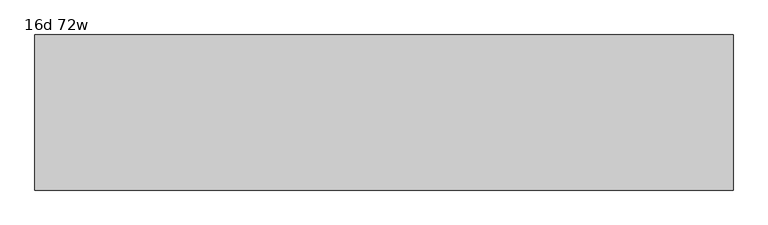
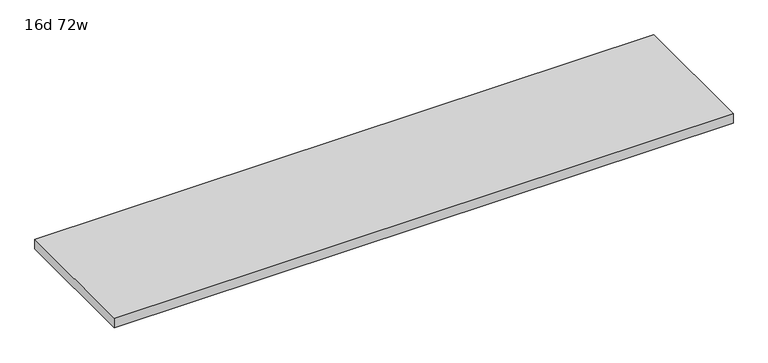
"""IFC4 building model written with IfcOpenShell, lengths in millimetres: furniture geometry, Haworth_BeHold_CommonTop : 16d 72w."""

import ifcopenshell
import ifcopenshell.guid

model = None  # the IFC model being written
_history = None  # IfcOwnerHistory: only IFC2X3 demands one
_inside = {}  # id of a spatial element -> (the spatial element, [elements in it])
_under = {}  # id of a project, library or spatial element -> (it, [spatial elements below it])
_declared = {}  # id of a project -> (the project, [libraries it declares])
_typed = {}  # id of a type object -> (the type object, [elements of that type])
_made_of = {}  # id of a material, layer set ... -> (it, [elements and type objects made of it])


def new_model(schema):
    """Start an empty IFC model of exactly this schema.

    Asked for "IFC4X3", IfcOpenShell would pick the latest addendum, in which some entities
    have other attributes; the version numbers below select the first issue.
    IFC2X3 requires an IfcOwnerHistory on every rooted entity: one is made here for all.
    """
    global model, _history
    if schema == "IFC4X3":
        model = ifcopenshell.file(schema_version=(4, 3, 0, 0))
    else:
        model = ifcopenshell.file(schema=schema)
    _inside.clear()
    _under.clear()
    _declared.clear()
    _typed.clear()
    _made_of.clear()
    _history = None
    if model.schema == "IFC2X3":
        org = make("IfcOrganization", Name="unknown")
        user = make(
            "IfcPersonAndOrganization",
            ThePerson=make("IfcPerson", FamilyName="unknown"),
            TheOrganization=org,
        )
        app = make(
            "IfcApplication",
            ApplicationDeveloper=org,
            Version="unknown",
            ApplicationFullName="unknown",
            ApplicationIdentifier="unknown",
        )
        _history = make(
            "IfcOwnerHistory",
            OwningUser=user,
            OwningApplication=app,
            ChangeAction="ADDED",
            CreationDate=0,
        )
    return model


def make(cls, **values):
    """One entity of the class cls with the attributes given. An attribute that is None is left unset."""
    return model.create_entity(
        cls, **{name: value for name, value in values.items() if value is not None}
    )


def rooted(cls, **values):
    """An entity with a GlobalId (a new one), such as an element, a storey or a relation."""
    return make(cls, GlobalId=ifcopenshell.guid.new(), OwnerHistory=_history, **values)


def si_unit(unit_type, name, prefix=None):
    """IfcSIUnit, for example si_unit("LENGTHUNIT", "METRE", prefix="MILLI")."""
    return make("IfcSIUnit", UnitType=unit_type, Prefix=prefix, Name=name)


def assignment(units):
    """IfcUnitAssignment: the units of a project."""
    return None if units is None else make("IfcUnitAssignment", Units=units)


def point(xyz):
    """IfcCartesianPoint."""
    return None if xyz is None else make("IfcCartesianPoint", Coordinates=xyz)


def direction(xyz):
    """IfcDirection."""
    return None if xyz is None else make("IfcDirection", DirectionRatios=xyz)


def frame(location, z_axis=None, x_axis=None):
    """IfcAxis2Placement3D, a coordinate frame: its origin and axes. An axis left out is left unset."""
    return make(
        "IfcAxis2Placement3D",
        Location=point(location),
        Axis=direction(z_axis),
        RefDirection=direction(x_axis),
    )


def origin():
    """The frame at (0, 0, 0) with its axes left unset."""
    return frame((0.0, 0.0, 0.0))


def place(relative_to, where):
    """IfcLocalPlacement: puts the frame where relative to a parent placement (None: the world)."""
    return make(
        "IfcLocalPlacement", PlacementRelTo=relative_to, RelativePlacement=where
    )


def context(
    kind, dimensions, precision=None, world=None, true_north=None, identifier=None
):
    """IfcGeometricRepresentationContext, for example the 3D "Model" context."""
    return make(
        "IfcGeometricRepresentationContext",
        ContextIdentifier=identifier,
        ContextType=kind,
        CoordinateSpaceDimension=dimensions,
        Precision=precision,
        WorldCoordinateSystem=world,
        TrueNorth=true_north,
    )


def project(units=None, contexts=None):
    """IfcProject with its units and contexts."""
    return rooted(
        "IfcProject",
        Name="project",
        RepresentationContexts=contexts,
        UnitsInContext=assignment(units),
    )


def spatial(cls, under=None, at=None, **own):
    """A site, building, storey or space (cls), placed at a placement, below another one or the project."""
    s = rooted(cls, ObjectPlacement=at, **own)
    if under is not None:
        _under.setdefault(under.id(), (under, []))[1].append(s)
    return s


def polyline(points):
    """IfcPolyline through the points."""
    return make("IfcPolyline", Points=[point(p) for p in points])


def outline(outer, holes=None, kind="AREA"):
    """IfcArbitraryClosedProfileDef: a profile drawn as a closed curve; with holes, ...WithVoids."""
    if holes is None:
        return make("IfcArbitraryClosedProfileDef", ProfileType=kind, OuterCurve=outer)
    return make(
        "IfcArbitraryProfileDefWithVoids",
        ProfileType=kind,
        OuterCurve=outer,
        InnerCurves=holes,
    )


def extrude(swept, where, along, depth):
    """IfcExtrudedAreaSolid: the profile swept, set in the frame where, extruded along a direction by depth."""
    return make(
        "IfcExtrudedAreaSolid",
        SweptArea=swept,
        Position=where,
        ExtrudedDirection=direction(along),
        Depth=depth,
    )


def shape(context_of_items, identifier, shape_type, items):
    """IfcShapeRepresentation: the items that make up one representation, for example the "Body"."""
    return make(
        "IfcShapeRepresentation",
        ContextOfItems=context_of_items,
        RepresentationIdentifier=identifier,
        RepresentationType=shape_type,
        Items=items,
    )


def source(mapping_origin, context_of_items, identifier, shape_type, items):
    """IfcRepresentationMap: a shape defined once, which mapped items show again and again."""
    return make(
        "IfcRepresentationMap",
        MappingOrigin=mapping_origin,
        MappedRepresentation=shape(context_of_items, identifier, shape_type, items),
    )


def transform(
    local_origin,
    x_axis=None,
    y_axis=None,
    z_axis=None,
    scale=None,
    scale2=None,
    scale3=None,
    uniform=True,
):
    """IfcCartesianTransformationOperator3D, or its non-uniform kind. x_axis, y_axis, z_axis: its Axis1, 2, 3."""
    if uniform:
        return make(
            "IfcCartesianTransformationOperator3D",
            Axis1=direction(x_axis),
            Axis2=direction(y_axis),
            LocalOrigin=point(local_origin),
            Scale=scale,
            Axis3=direction(z_axis),
        )
    return make(
        "IfcCartesianTransformationOperator3DnonUniform",
        Axis1=direction(x_axis),
        Axis2=direction(y_axis),
        LocalOrigin=point(local_origin),
        Scale=scale,
        Axis3=direction(z_axis),
        Scale2=scale2,
        Scale3=scale3,
    )


def mapped(mapping_source, mapping_target):
    """IfcMappedItem: shows the shape of a source again, moved by a transform."""
    return make(
        "IfcMappedItem", MappingSource=mapping_source, MappingTarget=mapping_target
    )


def made_of(thing, what):
    """Note that an element or type object is made of a material, layer set ...; save() writes the relation."""
    if what is not None:
        _made_of.setdefault(what.id(), (what, []))[1].append(thing)
    return thing


def element(
    cls,
    number,
    at=None,
    inside=None,
    cuts=None,
    type_object=None,
    material=None,
    context=None,
    identifier="Body",
    shape_type=None,
    held_by="IfcProductDefinitionShape",
    body=None,
    shapes=None,
    **own,
):
    """One element of the class cls, such as IfcWall. Its Tag is "e" and its number.

    at: its placement. inside: the storey or other place that contains it. cuts: it is an
    opening in that element (IfcRelVoidsElement). A single representation is given by context,
    identifier, shape_type and body (its items); several are given by shapes. held_by: the class
    of the entity that holds the representations. save() writes the other relations.
    """
    e = rooted(cls, Tag="e%d" % number, ObjectPlacement=at, **own)
    if body is not None:
        shapes = [shape(context, identifier, shape_type, body)]
    if shapes is not None:
        e.Representation = make(held_by, Representations=shapes)
    if inside is not None:
        _inside.setdefault(inside.id(), (inside, []))[1].append(e)
    if cuts is not None:
        rooted(
            "IfcRelVoidsElement", RelatingBuildingElement=cuts, RelatedOpeningElement=e
        )
    if type_object is not None:
        _typed.setdefault(type_object.id(), (type_object, []))[1].append(e)
    return made_of(e, material)


def aggregate(whole, parts):
    """IfcRelAggregates: a whole, such as a stair, and the parts it consists of."""
    return rooted("IfcRelAggregates", RelatingObject=whole, RelatedObjects=parts)


def save(model, path):
    """Write the relations noted so far, then the file.

    IfcRelAggregates (storeys below a building ...), IfcRelContainedInSpatialStructure (elements
    in a storey), IfcRelDefinesByType, IfcRelAssociatesMaterial and IfcRelDeclares: one each for
    every whole, place, type object, material and project.
    """
    for whole, parts in _under.values():
        aggregate(whole, parts)
    for where, things in _inside.values():
        rooted(
            "IfcRelContainedInSpatialStructure",
            RelatedElements=things,
            RelatingStructure=where,
        )
    for kind, things in _typed.values():
        rooted("IfcRelDefinesByType", RelatedObjects=things, RelatingType=kind)
    for what, things in _made_of.values():
        rooted("IfcRelAssociatesMaterial", RelatedObjects=things, RelatingMaterial=what)
    for by, libraries in _declared.values():
        rooted("IfcRelDeclares", RelatingContext=by, RelatedDefinitions=libraries)
    model.write(path)


def furniture_16d_72w_94a62672(model_context):
    return source(origin(), model_context, "Body", "SweptSolid", [
        extrude(outline(polyline([(757.5408447, -88.9), (757.5408447, -495.3), (-1071.2591553, -495.3), (-1071.2591553, -88.9), (757.5408447, -88.9)])), frame((0.0, 0.0, 539.75), z_axis=(0.0, 0.0, 1.0), x_axis=(1.0, 0.0, 0.0)), (0.0, 0.0, 1.0), 29.9640625),
    ])


if __name__ == "__main__":
    model = new_model("IFC4")
    model_context = context("Model", 3, world=origin())
    ifc_project = project(units=[si_unit("LENGTHUNIT", "METRE", prefix="MILLI")], contexts=[model_context])
    site = spatial("IfcSite", under=ifc_project)
    building = spatial("IfcBuilding", under=site)
    placement = place(None, origin())
    furniture_16d_72w_shape = furniture_16d_72w_94a62672(model_context)
    element("IfcFurniture", 1, ObjectType="Haworth_BeHold_CommonTop : 16d 72w", at=placement, inside=building, context=model_context, shape_type="MappedRepresentation", body=[
        mapped(furniture_16d_72w_shape, transform((0.0, 0.0, 0.0), x_axis=(1.0, 0.0, 0.0), y_axis=(0.0, 1.0, 0.0), z_axis=(0.0, 0.0, 1.0))),
    ])
    save(model, "model.ifc")
